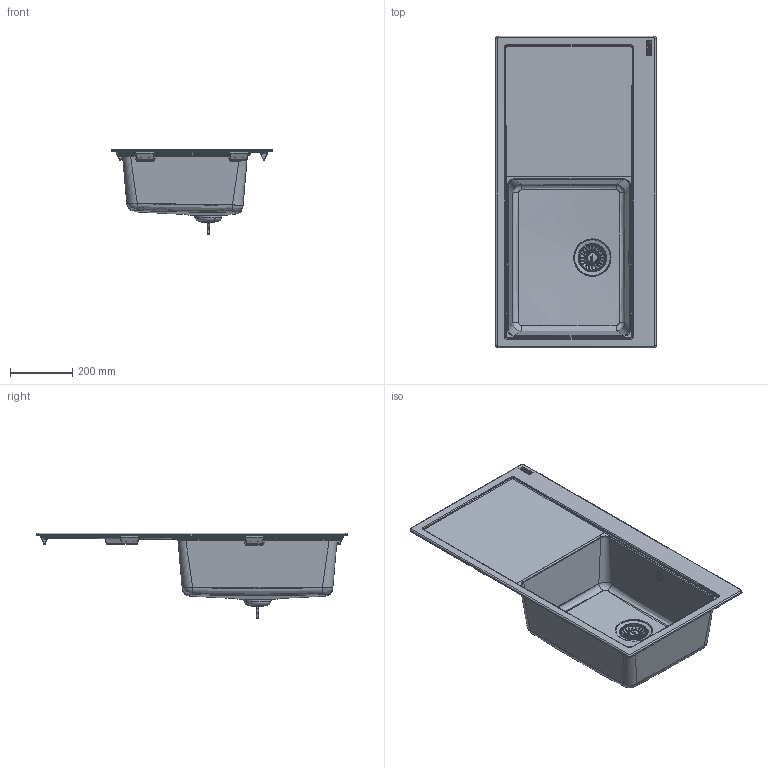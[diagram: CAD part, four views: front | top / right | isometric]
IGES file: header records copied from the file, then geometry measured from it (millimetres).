
Global section: file name: F:\_CONVERSIONE_CAD_2024_2025\_2024\03_3D kits new\Sinks\MYTHOS\3D001_Sinks_Mythos_MTG-611-LHD\3D001_Sinks_Mythos_MTG-611-LHD.igs; native system: Rhinoceros ( Feb 13 2024 ); preprocessor: Trout Lake IGES 012 Feb 13 2024; date: 240314.152119; units: millimetre
Bounding box: 515 x 1000 x 274.27 mm (x, y, z)
Surface area: 1676953.2 mm2 (no closed solid volume)
Topology: 0 solids, 0 shells, 2062 faces, 12458 edges, 12327 vertices
Faces by surface type: bspline 2062
